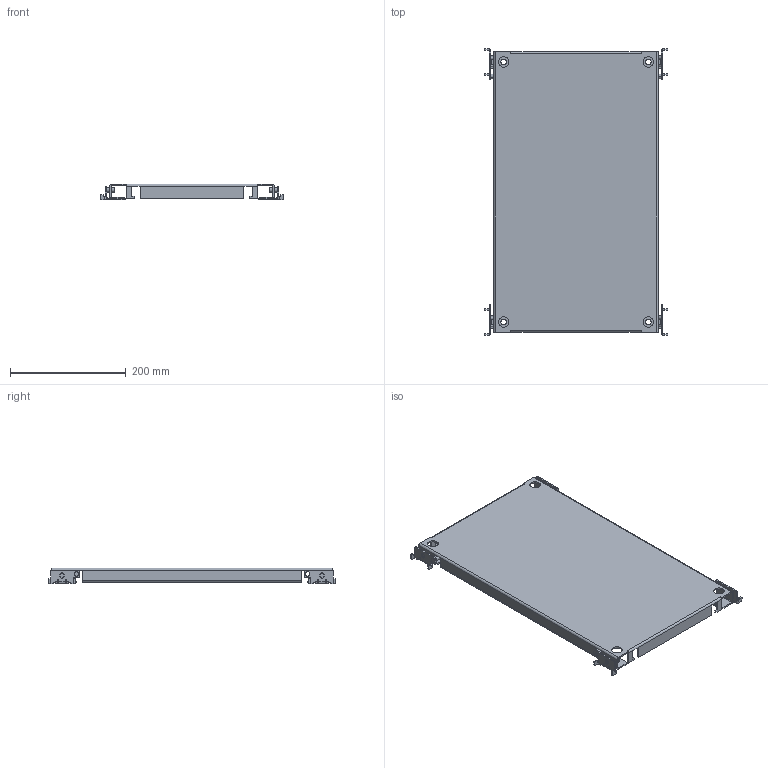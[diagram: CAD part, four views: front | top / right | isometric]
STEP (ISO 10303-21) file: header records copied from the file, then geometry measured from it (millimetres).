
FILE_DESCRIPTION (( 'STEP AP203' ), '1' );
FILE_NAME ('EUPZ-040060.step', '2015-11-24T08:38:24', ( 'Admin' ), ( '' ), 'SwSTEP 2.0', 'SolidWorks 2015', '' );
FILE_SCHEMA (( 'CONFIG_CONTROL_DESIGN' ));
Length unit declared in the file: millimetre
Products named in the file (9): AR_Montaggio_squadretta_fissaggio_piastra_parziale_ENUX_SX_SUP_CON_PERNO; AR_Squadretta_fissaggio_piastra_parziale_ENUX_DX; AR_Piastra_parziale_ENUX_0400x0600; AR_Montaggio_squadretta_fissaggio_piastra_parziale_ENUX_DX_SUP_CON_PERNO; AR_Squadretta_fissaggio_piastra_parziale_ENUX_SX; AR_Montaggio_squadretta_fissaggio_piastra_parziale_ENUX_DX_INF_SENZA_PERNO; AR_Montaggio_squadretta_fissaggio_piastra_parziale_ENUX_SX_INF_SENZA_PERNO; Perno_squadretta_piastra_parziale_ENUX; EUPZ-040060
Assembly tree (11 placements, depth 3):
  EUPZ-040060
    AR_Piastra_parziale_ENUX_0400x0600
    AR_Montaggio_squadretta_fissaggio_piastra_parziale_ENUX_SX_SUP_CON_PERNO
      AR_Squadretta_fissaggio_piastra_parziale_ENUX_SX
    AR_Montaggio_squadretta_fissaggio_piastra_parziale_ENUX_DX_SUP_CON_PERNO
      AR_Squadretta_fissaggio_piastra_parziale_ENUX_DX
    AR_Montaggio_squadretta_fissaggio_piastra_parziale_ENUX_DX_INF_SENZA_PERNO
      AR_Squadretta_fissaggio_piastra_parziale_ENUX_SX
    AR_Montaggio_squadretta_fissaggio_piastra_parziale_ENUX_SX_INF_SENZA_PERNO
      AR_Squadretta_fissaggio_piastra_parziale_ENUX_DX
    Perno_squadretta_piastra_parziale_ENUX  x2
Bounding box: 317 x 495.5 x 27.5 mm (x, y, z)
Volume: 482642.9 mm3; surface area: 396822.5 mm2
Topology: 7 solids, 7 shells, 550 faces, 1412 edges, 876 vertices
Faces by surface type: plane 362, cylinder 180, cone 8
Entity records: 11667 total; most frequent: CARTESIAN_POINT 1906, DIRECTION 1844, ORIENTED_EDGE 1808, EDGE_CURVE 904, LINE 672, VECTOR 672, AXIS2_PLACEMENT_3D 586, VERTEX_POINT 552
